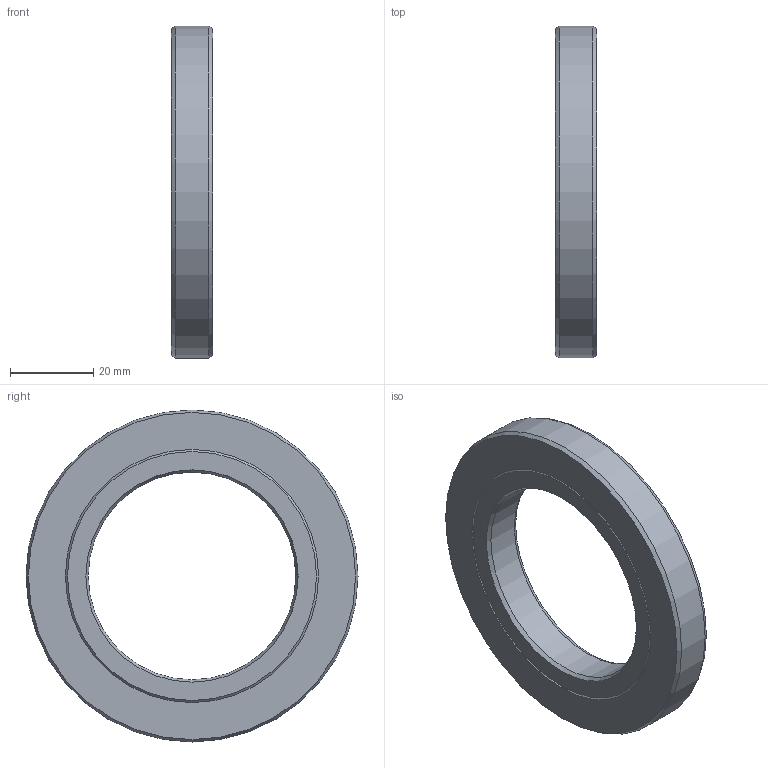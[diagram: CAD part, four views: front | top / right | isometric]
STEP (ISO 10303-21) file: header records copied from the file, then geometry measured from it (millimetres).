
FILE_DESCRIPTION(/* description */ (''),/* implementation_level */ '2;1');
FILE_NAME(/* name */ '301873 SA 50x80x10.stp',/* time_stamp */ '2016-12-16T15:15:35+01:00',/* author */ (''),/* organization */ (''),/* preprocessor_version */ 'ST-DEVELOPER v15',/* originating_system */ 'SIEMENS PLM Software NX 8.5',/* authorisation */ '');
FILE_SCHEMA (('CONFIG_CONTROL_DESIGN'));
Length unit declared in the file: millimetre
Products named in the file (1): ATE0000144_01
Bounding box: 10 x 80 x 80 mm (x, y, z)
Volume: 29222.3 mm3; surface area: 15177 mm2
Topology: 2 solids, 2 shells, 18 faces, 37 edges, 23 vertices
Faces by surface type: cone 10, plane 5, cylinder 3
Full cylindrical faces by diameter (mm): 50 x1, 80 x1
Entity records: 492 total; most frequent: DIRECTION 76, CARTESIAN_POINT 74, ORIENTED_EDGE 46, AXIS2_PLACEMENT_3D 38, EDGE_LOOP 33, FACE_BOUND 30, EDGE_CURVE 23, VERTEX_POINT 20
